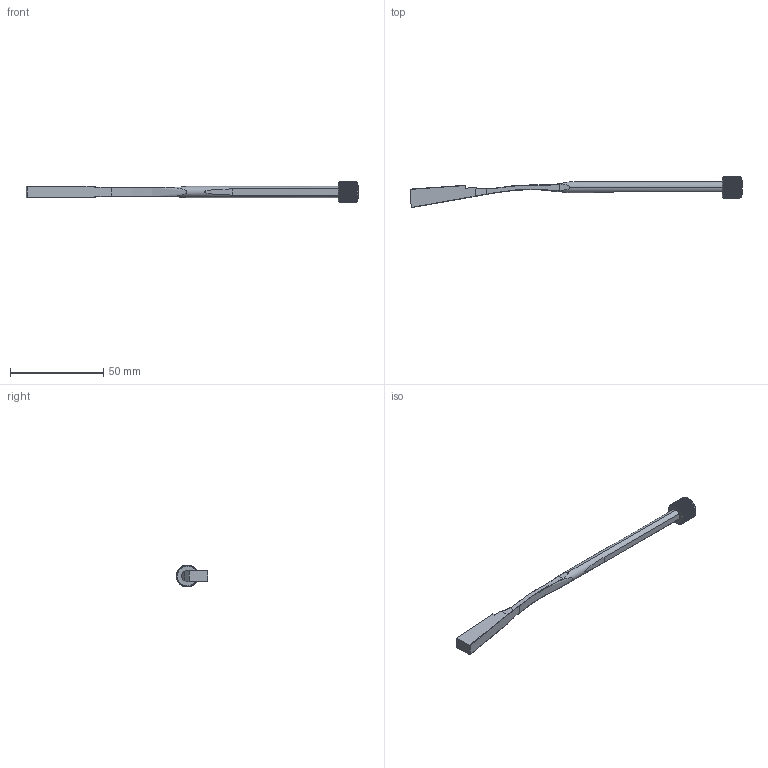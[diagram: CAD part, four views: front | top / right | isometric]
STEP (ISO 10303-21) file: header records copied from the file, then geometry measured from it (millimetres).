
FILE_DESCRIPTION (( 'STEP AP214' ), '1' );
FILE_NAME ('PX060630-175.Abierta.STEP', '2020-02-10T09:14:41', ( '' ), ( '' ), 'SwSTEP 2.0', 'SolidWorks 2018', '' );
FILE_SCHEMA (( 'AUTOMOTIVE_DESIGN' ));
Length unit declared in the file: millimetre
Products named in the file (4): JT ﾘ6X1,5; 9PX060630-175 abierta; PX060630-175.Abierta; 9TP0610HX-1
Assembly tree (3 placements, depth 2):
  PX060630-175.Abierta
    9PX060630-175 abierta
    9TP0610HX-1
    JT ﾘ6X1,5
Bounding box: 178.46 x 16.87 x 11.8 mm (x, y, z)
Volume: 5779.9 mm3; surface area: 4714.8 mm2
Topology: 3 solids, 3 shells, 766 faces, 2141 edges, 1417 vertices
Faces by surface type: plane 296, bspline 285, cylinder 156, cone 19, torus 10
Entity records: 44151 total; most frequent: CARTESIAN_POINT 23116, ORIENTED_EDGE 4282, EDGE_CURVE 2141, DIRECTION 2121, VERTEX_POINT 1417, B_SPLINE_CURVE_WITH_KNOTS 1291, EDGE_LOOP 806, AXIS2_PLACEMENT_3D 794
